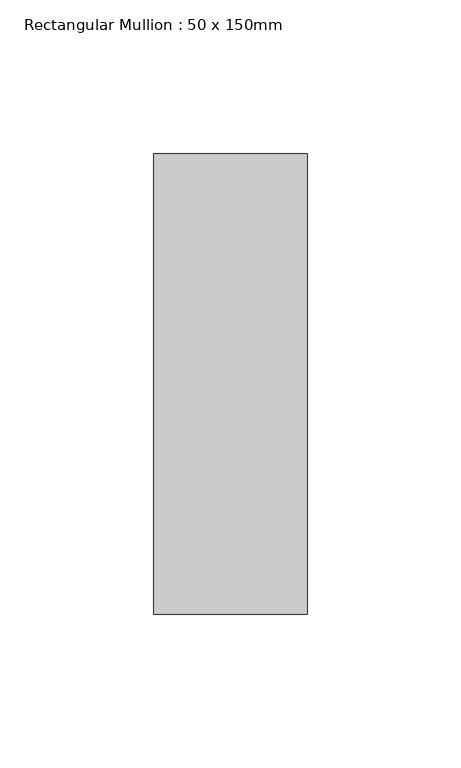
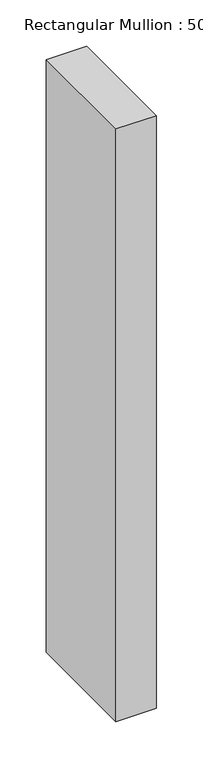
"""IFC4 building model written with IfcOpenShell, lengths in millimetres: member geometry, Rectangular Mullion : 50 x 150mm."""

from ifc_helpers import new_model, si_unit, frame, origin, place, context, project, spatial, polyline, outline, extrude, source, transform, mapped, element, save


def rectangular_mullion_50_x_150mm_13a70143(model_context):
    return source(origin(), model_context, "Body", "SweptSolid", [
        extrude(outline(polyline([(25.0, 75.0), (25.0, -75.0), (-25.0, -75.0), (-25.0, 75.0), (25.0, 75.0)])), frame((0.0, 0.0, -779.8293097), z_axis=(0.0, 0.0, 1.0), x_axis=(1.0, 0.0, 0.0)), (0.0, 0.0, 1.0), 779.8293097),
    ])


if __name__ == "__main__":
    model = new_model("IFC4")
    model_context = context("Model", 3, world=origin())
    ifc_project = project(units=[si_unit("LENGTHUNIT", "METRE", prefix="MILLI")], contexts=[model_context])
    site = spatial("IfcSite", under=ifc_project)
    building = spatial("IfcBuilding", under=site)
    placement = place(None, origin())
    rectangular_mullion_50_x_150mm_shape = rectangular_mullion_50_x_150mm_13a70143(model_context)
    element("IfcMember", 1, ObjectType="Rectangular Mullion : 50 x 150mm", at=placement, inside=building, context=model_context, shape_type="MappedRepresentation", body=[
        mapped(rectangular_mullion_50_x_150mm_shape, transform((0.0, 0.0, 0.0), x_axis=(1.0, 0.0, 0.0), y_axis=(0.0, 1.0, 0.0), z_axis=(0.0, 0.0, 1.0))),
    ])
    save(model, "model.ifc")
